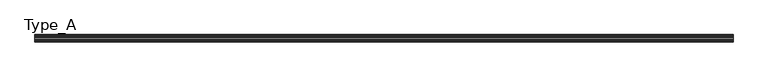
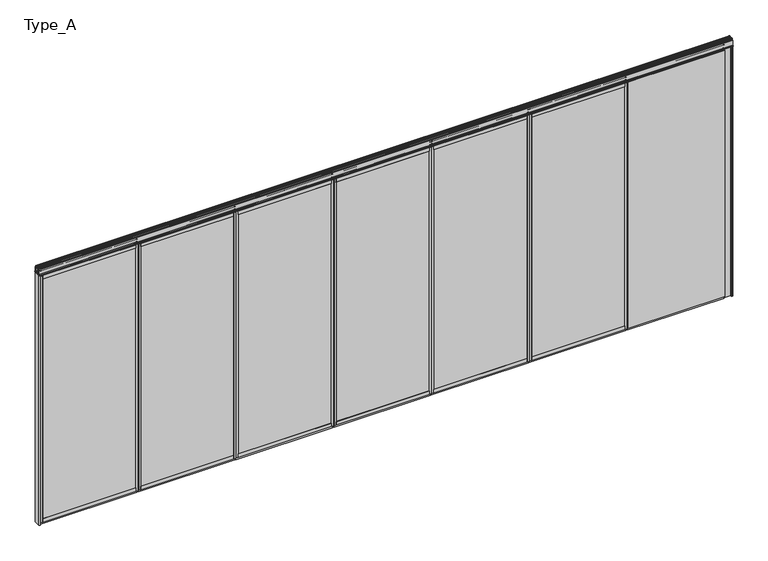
"""IFC4 building model written with IfcOpenShell, lengths in millimetres: proxy geometry, Planner Wall_ダブルガラス(NO Door) : Type_A."""

from ifc_helpers import new_model, si_unit, point, frame, frame_2d, origin, origin_with_axes, place, context, project, spatial, polyline, circle_curve, trimmed, segment, composite_curve, outline, extrude, source, transform, mapped, element, save


def type_a_3dc682f6(model_context):
    return source(origin(), model_context, "Body", "SweptSolid", [
        extrude(outline(polyline([(-1723.5, -25.0), (-1723.5, 25.0), (-630.5714286, 25.0), (-630.5714286, -25.0), (-1723.5, -25.0)])), origin_with_axes(), (0.0, 0.0, 1.0), 65.0),
        extrude(outline(polyline([(-647.0714286, 25.0), (-1701.5, 25.0), (-1701.5, 35.0), (-647.0714286, 35.0), (-647.0714286, 25.0)])), frame((0.0, 0.0, 2935.0), z_axis=(0.0, 0.0, 1.0), x_axis=(1.0, 0.0, 0.0)), (0.0, 0.0, 1.0), 40.0),
        extrude(outline(polyline([(-647.0714286, 25.0), (-1701.5, 25.0), (-1701.5, 35.0), (-647.0714286, 35.0), (-647.0714286, 25.0)])), frame((0.0, 0.0, 25.0), z_axis=(0.0, 0.0, 1.0), x_axis=(1.0, 0.0, 0.0)), (0.0, 0.0, 1.0), 40.0),
        extrude(outline(polyline([(-1683.5, -27.0), (-1701.5, -27.0), (-1701.5, 27.0), (-1683.5, 27.0), (-1683.5, -27.0)])), frame((0.0, 0.0, 65.0), z_axis=(0.0, 0.0, 1.0), x_axis=(1.0, 0.0, 0.0)), (0.0, 0.0, 1.0), 2870.0),
        extrude(outline(polyline([(-647.0714286, -27.0), (-665.0714286, -27.0), (-665.0714286, 27.0), (-647.0714286, 27.0), (-647.0714286, -27.0)])), frame((0.0, 0.0, 65.0), z_axis=(0.0, 0.0, 1.0), x_axis=(1.0, 0.0, 0.0)), (0.0, 0.0, 1.0), 2870.0),
        extrude(outline(polyline([(-665.0714286, -27.0), (-1683.5, -27.0), (-1683.5, 27.0), (-665.0714286, 27.0), (-665.0714286, -27.0)])), frame((0.0, 0.0, 65.0), z_axis=(0.0, 0.0, 1.0), x_axis=(1.0, 0.0, 0.0)), (0.0, 0.0, 1.0), 102.0),
        extrude(outline(polyline([(-665.0714286, -27.0), (-1683.5, -27.0), (-1683.5, 27.0), (-665.0714286, 27.0), (-665.0714286, -27.0)])), frame((0.0, 0.0, 2833.0), z_axis=(0.0, 0.0, 1.0), x_axis=(1.0, 0.0, 0.0)), (0.0, 0.0, 1.0), 102.0),
        extrude(outline(composite_curve([segment(polyline([(23.5, 3050.1000003), (26.5, 3047.1000003), (26.5, 3032.6)]), True, "CONTINUOUS"), segment(trimmed(circle_curve(frame_2d((25.0, 3032.6)), 1.5), [point((26.5, 3032.6))], [point((25.0, 3031.1))], False, "CARTESIAN"), True, "CONTINUOUS"), segment(polyline([(25.0, 3031.1), (9.0, 3031.1), (9.0, 3019.1000003), (23.5, 3019.1000003), (26.5, 3016.1000003), (26.5, 3001.5)]), True, "CONTINUOUS"), segment(trimmed(circle_curve(frame_2d((25.0, 3001.5)), 1.5), [point((26.5, 3001.5))], [point((25.0, 3000.0))], False, "CARTESIAN"), True, "CONTINUOUS"), segment(polyline([(25.0, 3000.0), (7.5, 3000.0), (7.5, 2994.5), (25.0, 2994.5), (25.0, 2935.0), (-25.0, 2935.0), (-25.0, 2994.5), (-7.5, 2994.5), (-7.5, 3000.0), (-25.0, 3000.0)]), True, "CONTINUOUS"), segment(trimmed(circle_curve(frame_2d((-25.0, 3001.5)), 1.5), [point((-25.0, 3000.0))], [point((-26.5, 3001.5))], False, "CARTESIAN"), True, "CONTINUOUS"), segment(polyline([(-26.5, 3001.5), (-26.5, 3016.1000003), (-23.5, 3019.1000003), (-9.0, 3019.1000003), (-9.0, 3031.1), (-25.0, 3031.1)]), True, "CONTINUOUS"), segment(trimmed(circle_curve(frame_2d((-25.0, 3032.6)), 1.5), [point((-25.0, 3031.1))], [point((-26.5, 3032.6))], False, "CARTESIAN"), True, "CONTINUOUS"), segment(polyline([(-26.5, 3032.6), (-26.5, 3047.1000003), (-23.5, 3050.1000003), (23.5, 3050.1000003)]), True, "CONTINUOUS")], self_intersect=False)), frame((-1723.5, 0.0, 0.0), z_axis=(1.0, 0.0, 0.0), x_axis=(0.0, 1.0, 0.0)), (0.0, 0.0, 1.0), 1098.4285714),
        extrude(outline(polyline([(-647.0714286, 27.5), (-1701.5, 27.5), (-1701.5, 32.5), (-647.0714286, 32.5), (-647.0714286, 27.5)])), frame((0.0, 0.0, 65.0), z_axis=(0.0, 0.0, 1.0), x_axis=(1.0, 0.0, 0.0)), (0.0, 0.0, 1.0), 2870.0),
        extrude(outline(polyline([(-647.0714286, -32.5), (-1701.5, -32.5), (-1701.5, -27.5), (-647.0714286, -27.5), (-647.0714286, -32.5)])), frame((0.0, 0.0, 65.0), z_axis=(0.0, 0.0, 1.0), x_axis=(1.0, 0.0, 0.0)), (0.0, 0.0, 1.0), 2870.0),
        extrude(outline(polyline([(-647.0714286, -35.0), (-1701.5, -35.0), (-1701.5, -25.0), (-647.0714286, -25.0), (-647.0714286, -35.0)])), frame((0.0, 0.0, 2935.0), z_axis=(0.0, 0.0, 1.0), x_axis=(1.0, 0.0, 0.0)), (0.0, 0.0, 1.0), 40.0),
        extrude(outline(polyline([(-647.0714286, -35.0), (-1701.5, -35.0), (-1701.5, -25.0), (-647.0714286, -25.0), (-647.0714286, -35.0)])), frame((0.0, 0.0, 25.0), z_axis=(0.0, 0.0, 1.0), x_axis=(1.0, 0.0, 0.0)), (0.0, 0.0, 1.0), 40.0),
        extrude(outline(polyline([(-1737.0, -25.0), (-1737.0, 25.0), (-1723.5, 25.0), (-1723.5, -25.0), (-1737.0, -25.0)])), frame((0.0, 0.0, 53.0), z_axis=(0.0, 0.0, 1.0), x_axis=(1.0, 0.0, 0.0)), (0.0, 0.0, 1.0), 2869.0),
        extrude(outline(polyline([(-647.0714286, 35.0), (-625.0714286, 35.0), (-625.0714286, 25.0), (-647.0714286, 25.0), (-647.0714286, 35.0)])), frame((0.0, 0.0, 25.0), z_axis=(0.0, 0.0, 1.0), x_axis=(1.0, 0.0, 0.0)), (0.0, 0.0, 1.0), 2950.0),
        extrude(outline(polyline([(-647.0714286, -35.0), (-647.0714286, -25.0), (-625.0714286, -25.0), (-625.0714286, -35.0), (-647.0714286, -35.0)])), frame((0.0, 0.0, 25.0), z_axis=(0.0, 0.0, 1.0), x_axis=(1.0, 0.0, 0.0)), (0.0, 0.0, 1.0), 2950.0),
        extrude(outline(polyline([(-1723.5, -35.0), (-1723.5, -25.0), (-1701.5, -25.0), (-1701.5, -35.0), (-1723.5, -35.0)])), frame((0.0, 0.0, 25.0), z_axis=(0.0, 0.0, 1.0), x_axis=(1.0, 0.0, 0.0)), (0.0, 0.0, 1.0), 2950.0),
        extrude(outline(polyline([(-1723.5, 25.0), (-1723.5, 35.0), (-1701.5, 35.0), (-1701.5, 25.0), (-1723.5, 25.0)])), frame((0.0, 0.0, 25.0), z_axis=(0.0, 0.0, 1.0), x_axis=(1.0, 0.0, 0.0)), (0.0, 0.0, 1.0), 2950.0),
        extrude(outline(polyline([(-617.0714286, -25.0), (-617.0714286, 25.0), (475.8571429, 25.0), (475.8571429, -25.0), (-617.0714286, -25.0)])), origin_with_axes(), (0.0, 0.0, 1.0), 65.0),
        extrude(outline(polyline([(459.3571429, 25.0), (-595.0714286, 25.0), (-595.0714286, 35.0), (459.3571429, 35.0), (459.3571429, 25.0)])), frame((0.0, 0.0, 2935.0), z_axis=(0.0, 0.0, 1.0), x_axis=(1.0, 0.0, 0.0)), (0.0, 0.0, 1.0), 40.0),
        extrude(outline(polyline([(459.3571429, 25.0), (-595.0714286, 25.0), (-595.0714286, 35.0), (459.3571429, 35.0), (459.3571429, 25.0)])), frame((0.0, 0.0, 25.0), z_axis=(0.0, 0.0, 1.0), x_axis=(1.0, 0.0, 0.0)), (0.0, 0.0, 1.0), 40.0),
        extrude(outline(polyline([(-577.0714286, -27.0), (-595.0714286, -27.0), (-595.0714286, 27.0), (-577.0714286, 27.0), (-577.0714286, -27.0)])), frame((0.0, 0.0, 65.0), z_axis=(0.0, 0.0, 1.0), x_axis=(1.0, 0.0, 0.0)), (0.0, 0.0, 1.0), 2870.0),
        extrude(outline(polyline([(459.3571429, -27.0), (441.3571429, -27.0), (441.3571429, 27.0), (459.3571429, 27.0), (459.3571429, -27.0)])), frame((0.0, 0.0, 65.0), z_axis=(0.0, 0.0, 1.0), x_axis=(1.0, 0.0, 0.0)), (0.0, 0.0, 1.0), 2870.0),
        extrude(outline(polyline([(441.3571429, -27.0), (-577.0714286, -27.0), (-577.0714286, 27.0), (441.3571429, 27.0), (441.3571429, -27.0)])), frame((0.0, 0.0, 65.0), z_axis=(0.0, 0.0, 1.0), x_axis=(1.0, 0.0, 0.0)), (0.0, 0.0, 1.0), 102.0),
        extrude(outline(polyline([(441.3571429, -27.0), (-577.0714286, -27.0), (-577.0714286, 27.0), (441.3571429, 27.0), (441.3571429, -27.0)])), frame((0.0, 0.0, 2833.0), z_axis=(0.0, 0.0, 1.0), x_axis=(1.0, 0.0, 0.0)), (0.0, 0.0, 1.0), 102.0),
        extrude(outline(composite_curve([segment(polyline([(23.5, 3050.1000003), (26.5, 3047.1000003), (26.5, 3032.6)]), True, "CONTINUOUS"), segment(trimmed(circle_curve(frame_2d((25.0, 3032.6)), 1.5), [point((26.5, 3032.6))], [point((25.0, 3031.1))], False, "CARTESIAN"), True, "CONTINUOUS"), segment(polyline([(25.0, 3031.1), (9.0, 3031.1), (9.0, 3019.1000003), (23.5, 3019.1000003), (26.5, 3016.1000003), (26.5, 3001.5)]), True, "CONTINUOUS"), segment(trimmed(circle_curve(frame_2d((25.0, 3001.5)), 1.5), [point((26.5, 3001.5))], [point((25.0, 3000.0))], False, "CARTESIAN"), True, "CONTINUOUS"), segment(polyline([(25.0, 3000.0), (7.5, 3000.0), (7.5, 2994.5), (25.0, 2994.5), (25.0, 2935.0), (-25.0, 2935.0), (-25.0, 2994.5), (-7.5, 2994.5), (-7.5, 3000.0), (-25.0, 3000.0)]), True, "CONTINUOUS"), segment(trimmed(circle_curve(frame_2d((-25.0, 3001.5)), 1.5), [point((-25.0, 3000.0))], [point((-26.5, 3001.5))], False, "CARTESIAN"), True, "CONTINUOUS"), segment(polyline([(-26.5, 3001.5), (-26.5, 3016.1000003), (-23.5, 3019.1000003), (-9.0, 3019.1000003), (-9.0, 3031.1), (-25.0, 3031.1)]), True, "CONTINUOUS"), segment(trimmed(circle_curve(frame_2d((-25.0, 3032.6)), 1.5), [point((-25.0, 3031.1))], [point((-26.5, 3032.6))], False, "CARTESIAN"), True, "CONTINUOUS"), segment(polyline([(-26.5, 3032.6), (-26.5, 3047.1000003), (-23.5, 3050.1000003), (23.5, 3050.1000003)]), True, "CONTINUOUS")], self_intersect=False)), frame((-617.0714286, 0.0, 0.0), z_axis=(1.0, 0.0, 0.0), x_axis=(0.0, 1.0, 0.0)), (0.0, 0.0, 1.0), 1098.4285714),
        extrude(outline(polyline([(459.3571429, 27.5), (-595.0714286, 27.5), (-595.0714286, 32.5), (459.3571429, 32.5), (459.3571429, 27.5)])), frame((0.0, 0.0, 65.0), z_axis=(0.0, 0.0, 1.0), x_axis=(1.0, 0.0, 0.0)), (0.0, 0.0, 1.0), 2870.0),
        extrude(outline(polyline([(459.3571429, -32.5), (-595.0714286, -32.5), (-595.0714286, -27.5), (459.3571429, -27.5), (459.3571429, -32.5)])), frame((0.0, 0.0, 65.0), z_axis=(0.0, 0.0, 1.0), x_axis=(1.0, 0.0, 0.0)), (0.0, 0.0, 1.0), 2870.0),
        extrude(outline(polyline([(459.3571429, -35.0), (-595.0714286, -35.0), (-595.0714286, -25.0), (459.3571429, -25.0), (459.3571429, -35.0)])), frame((0.0, 0.0, 2935.0), z_axis=(0.0, 0.0, 1.0), x_axis=(1.0, 0.0, 0.0)), (0.0, 0.0, 1.0), 40.0),
        extrude(outline(polyline([(459.3571429, -35.0), (-595.0714286, -35.0), (-595.0714286, -25.0), (459.3571429, -25.0), (459.3571429, -35.0)])), frame((0.0, 0.0, 25.0), z_axis=(0.0, 0.0, 1.0), x_axis=(1.0, 0.0, 0.0)), (0.0, 0.0, 1.0), 40.0),
        extrude(outline(polyline([(-630.5714286, -25.0), (-630.5714286, 25.0), (-617.0714286, 25.0), (-617.0714286, -25.0), (-630.5714286, -25.0)])), frame((0.0, 0.0, 53.0), z_axis=(0.0, 0.0, 1.0), x_axis=(1.0, 0.0, 0.0)), (0.0, 0.0, 1.0), 2869.0),
        extrude(outline(polyline([(459.3571429, 35.0), (481.3571429, 35.0), (481.3571429, 25.0), (459.3571429, 25.0), (459.3571429, 35.0)])), frame((0.0, 0.0, 25.0), z_axis=(0.0, 0.0, 1.0), x_axis=(1.0, 0.0, 0.0)), (0.0, 0.0, 1.0), 2950.0),
        extrude(outline(polyline([(459.3571429, -35.0), (459.3571429, -25.0), (481.3571429, -25.0), (481.3571429, -35.0), (459.3571429, -35.0)])), frame((0.0, 0.0, 25.0), z_axis=(0.0, 0.0, 1.0), x_axis=(1.0, 0.0, 0.0)), (0.0, 0.0, 1.0), 2950.0),
        extrude(outline(polyline([(-617.0714286, -35.0), (-617.0714286, -25.0), (-595.0714286, -25.0), (-595.0714286, -35.0), (-617.0714286, -35.0)])), frame((0.0, 0.0, 25.0), z_axis=(0.0, 0.0, 1.0), x_axis=(1.0, 0.0, 0.0)), (0.0, 0.0, 1.0), 2950.0),
        extrude(outline(polyline([(-617.0714286, 25.0), (-617.0714286, 35.0), (-595.0714286, 35.0), (-595.0714286, 25.0), (-617.0714286, 25.0)])), frame((0.0, 0.0, 25.0), z_axis=(0.0, 0.0, 1.0), x_axis=(1.0, 0.0, 0.0)), (0.0, 0.0, 1.0), 2950.0),
        extrude(outline(polyline([(489.3571429, -25.0), (489.3571429, 25.0), (1582.2857143, 25.0), (1582.2857143, -25.0), (489.3571429, -25.0)])), origin_with_axes(), (0.0, 0.0, 1.0), 65.0),
        extrude(outline(polyline([(1565.7857143, 25.0), (511.3571429, 25.0), (511.3571429, 35.0), (1565.7857143, 35.0), (1565.7857143, 25.0)])), frame((0.0, 0.0, 2935.0), z_axis=(0.0, 0.0, 1.0), x_axis=(1.0, 0.0, 0.0)), (0.0, 0.0, 1.0), 40.0),
        extrude(outline(polyline([(1565.7857143, 25.0), (511.3571429, 25.0), (511.3571429, 35.0), (1565.7857143, 35.0), (1565.7857143, 25.0)])), frame((0.0, 0.0, 25.0), z_axis=(0.0, 0.0, 1.0), x_axis=(1.0, 0.0, 0.0)), (0.0, 0.0, 1.0), 40.0),
        extrude(outline(polyline([(529.3571429, -27.0), (511.3571429, -27.0), (511.3571429, 27.0), (529.3571429, 27.0), (529.3571429, -27.0)])), frame((0.0, 0.0, 65.0), z_axis=(0.0, 0.0, 1.0), x_axis=(1.0, 0.0, 0.0)), (0.0, 0.0, 1.0), 2870.0),
        extrude(outline(polyline([(1565.7857143, -27.0), (1547.7857143, -27.0), (1547.7857143, 27.0), (1565.7857143, 27.0), (1565.7857143, -27.0)])), frame((0.0, 0.0, 65.0), z_axis=(0.0, 0.0, 1.0), x_axis=(1.0, 0.0, 0.0)), (0.0, 0.0, 1.0), 2870.0),
        extrude(outline(polyline([(1547.7857143, -27.0), (529.3571429, -27.0), (529.3571429, 27.0), (1547.7857143, 27.0), (1547.7857143, -27.0)])), frame((0.0, 0.0, 65.0), z_axis=(0.0, 0.0, 1.0), x_axis=(1.0, 0.0, 0.0)), (0.0, 0.0, 1.0), 102.0),
        extrude(outline(polyline([(1547.7857143, -27.0), (529.3571429, -27.0), (529.3571429, 27.0), (1547.7857143, 27.0), (1547.7857143, -27.0)])), frame((0.0, 0.0, 2833.0), z_axis=(0.0, 0.0, 1.0), x_axis=(1.0, 0.0, 0.0)), (0.0, 0.0, 1.0), 102.0),
        extrude(outline(composite_curve([segment(polyline([(23.5, 3050.1000003), (26.5, 3047.1000003), (26.5, 3032.6)]), True, "CONTINUOUS"), segment(trimmed(circle_curve(frame_2d((25.0, 3032.6)), 1.5), [point((26.5, 3032.6))], [point((25.0, 3031.1))], False, "CARTESIAN"), True, "CONTINUOUS"), segment(polyline([(25.0, 3031.1), (9.0, 3031.1), (9.0, 3019.1000003), (23.5, 3019.1000003), (26.5, 3016.1000003), (26.5, 3001.5)]), True, "CONTINUOUS"), segment(trimmed(circle_curve(frame_2d((25.0, 3001.5)), 1.5), [point((26.5, 3001.5))], [point((25.0, 3000.0))], False, "CARTESIAN"), True, "CONTINUOUS"), segment(polyline([(25.0, 3000.0), (7.5, 3000.0), (7.5, 2994.5), (25.0, 2994.5), (25.0, 2935.0), (-25.0, 2935.0), (-25.0, 2994.5), (-7.5, 2994.5), (-7.5, 3000.0), (-25.0, 3000.0)]), True, "CONTINUOUS"), segment(trimmed(circle_curve(frame_2d((-25.0, 3001.5)), 1.5), [point((-25.0, 3000.0))], [point((-26.5, 3001.5))], False, "CARTESIAN"), True, "CONTINUOUS"), segment(polyline([(-26.5, 3001.5), (-26.5, 3016.1000003), (-23.5, 3019.1000003), (-9.0, 3019.1000003), (-9.0, 3031.1), (-25.0, 3031.1)]), True, "CONTINUOUS"), segment(trimmed(circle_curve(frame_2d((-25.0, 3032.6)), 1.5), [point((-25.0, 3031.1))], [point((-26.5, 3032.6))], False, "CARTESIAN"), True, "CONTINUOUS"), segment(polyline([(-26.5, 3032.6), (-26.5, 3047.1000003), (-23.5, 3050.1000003), (23.5, 3050.1000003)]), True, "CONTINUOUS")], self_intersect=False)), frame((489.3571429, 0.0, 0.0), z_axis=(1.0, 0.0, 0.0), x_axis=(0.0, 1.0, 0.0)), (0.0, 0.0, 1.0), 1098.4285714),
        extrude(outline(polyline([(1565.7857143, 27.5), (511.3571429, 27.5), (511.3571429, 32.5), (1565.7857143, 32.5), (1565.7857143, 27.5)])), frame((0.0, 0.0, 65.0), z_axis=(0.0, 0.0, 1.0), x_axis=(1.0, 0.0, 0.0)), (0.0, 0.0, 1.0), 2870.0),
        extrude(outline(polyline([(1565.7857143, -32.5), (511.3571429, -32.5), (511.3571429, -27.5), (1565.7857143, -27.5), (1565.7857143, -32.5)])), frame((0.0, 0.0, 65.0), z_axis=(0.0, 0.0, 1.0), x_axis=(1.0, 0.0, 0.0)), (0.0, 0.0, 1.0), 2870.0),
        extrude(outline(polyline([(1565.7857143, -35.0), (511.3571429, -35.0), (511.3571429, -25.0), (1565.7857143, -25.0), (1565.7857143, -35.0)])), frame((0.0, 0.0, 2935.0), z_axis=(0.0, 0.0, 1.0), x_axis=(1.0, 0.0, 0.0)), (0.0, 0.0, 1.0), 40.0),
        extrude(outline(polyline([(1565.7857143, -35.0), (511.3571429, -35.0), (511.3571429, -25.0), (1565.7857143, -25.0), (1565.7857143, -35.0)])), frame((0.0, 0.0, 25.0), z_axis=(0.0, 0.0, 1.0), x_axis=(1.0, 0.0, 0.0)), (0.0, 0.0, 1.0), 40.0),
        extrude(outline(polyline([(475.8571429, -25.0), (475.8571429, 25.0), (489.3571429, 25.0), (489.3571429, -25.0), (475.8571429, -25.0)])), frame((0.0, 0.0, 53.0), z_axis=(0.0, 0.0, 1.0), x_axis=(1.0, 0.0, 0.0)), (0.0, 0.0, 1.0), 2869.0),
        extrude(outline(polyline([(1565.7857143, 35.0), (1587.7857143, 35.0), (1587.7857143, 25.0), (1565.7857143, 25.0), (1565.7857143, 35.0)])), frame((0.0, 0.0, 25.0), z_axis=(0.0, 0.0, 1.0), x_axis=(1.0, 0.0, 0.0)), (0.0, 0.0, 1.0), 2950.0),
        extrude(outline(polyline([(1565.7857143, -35.0), (1565.7857143, -25.0), (1587.7857143, -25.0), (1587.7857143, -35.0), (1565.7857143, -35.0)])), frame((0.0, 0.0, 25.0), z_axis=(0.0, 0.0, 1.0), x_axis=(1.0, 0.0, 0.0)), (0.0, 0.0, 1.0), 2950.0),
        extrude(outline(polyline([(489.3571429, -35.0), (489.3571429, -25.0), (511.3571429, -25.0), (511.3571429, -35.0), (489.3571429, -35.0)])), frame((0.0, 0.0, 25.0), z_axis=(0.0, 0.0, 1.0), x_axis=(1.0, 0.0, 0.0)), (0.0, 0.0, 1.0), 2950.0),
        extrude(outline(polyline([(489.3571429, 25.0), (489.3571429, 35.0), (511.3571429, 35.0), (511.3571429, 25.0), (489.3571429, 25.0)])), frame((0.0, 0.0, 25.0), z_axis=(0.0, 0.0, 1.0), x_axis=(1.0, 0.0, 0.0)), (0.0, 0.0, 1.0), 2950.0),
        extrude(outline(polyline([(1595.7857143, -25.0), (1595.7857143, 25.0), (2688.7142857, 25.0), (2688.7142857, -25.0), (1595.7857143, -25.0)])), origin_with_axes(), (0.0, 0.0, 1.0), 65.0),
        extrude(outline(polyline([(2672.2142857, 25.0), (1617.7857143, 25.0), (1617.7857143, 35.0), (2672.2142857, 35.0), (2672.2142857, 25.0)])), frame((0.0, 0.0, 2935.0), z_axis=(0.0, 0.0, 1.0), x_axis=(1.0, 0.0, 0.0)), (0.0, 0.0, 1.0), 40.0),
        extrude(outline(polyline([(2672.2142857, 25.0), (1617.7857143, 25.0), (1617.7857143, 35.0), (2672.2142857, 35.0), (2672.2142857, 25.0)])), frame((0.0, 0.0, 25.0), z_axis=(0.0, 0.0, 1.0), x_axis=(1.0, 0.0, 0.0)), (0.0, 0.0, 1.0), 40.0),
        extrude(outline(polyline([(1635.7857143, -27.0), (1617.7857143, -27.0), (1617.7857143, 27.0), (1635.7857143, 27.0), (1635.7857143, -27.0)])), frame((0.0, 0.0, 65.0), z_axis=(0.0, 0.0, 1.0), x_axis=(1.0, 0.0, 0.0)), (0.0, 0.0, 1.0), 2870.0),
        extrude(outline(polyline([(2672.2142857, -27.0), (2654.2142857, -27.0), (2654.2142857, 27.0), (2672.2142857, 27.0), (2672.2142857, -27.0)])), frame((0.0, 0.0, 65.0), z_axis=(0.0, 0.0, 1.0), x_axis=(1.0, 0.0, 0.0)), (0.0, 0.0, 1.0), 2870.0),
        extrude(outline(polyline([(2654.2142857, -27.0), (1635.7857143, -27.0), (1635.7857143, 27.0), (2654.2142857, 27.0), (2654.2142857, -27.0)])), frame((0.0, 0.0, 65.0), z_axis=(0.0, 0.0, 1.0), x_axis=(1.0, 0.0, 0.0)), (0.0, 0.0, 1.0), 102.0),
        extrude(outline(polyline([(2654.2142857, -27.0), (1635.7857143, -27.0), (1635.7857143, 27.0), (2654.2142857, 27.0), (2654.2142857, -27.0)])), frame((0.0, 0.0, 2833.0), z_axis=(0.0, 0.0, 1.0), x_axis=(1.0, 0.0, 0.0)), (0.0, 0.0, 1.0), 102.0),
        extrude(outline(composite_curve([segment(polyline([(23.5, 3050.1000003), (26.5, 3047.1000003), (26.5, 3032.6)]), True, "CONTINUOUS"), segment(trimmed(circle_curve(frame_2d((25.0, 3032.6)), 1.5), [point((26.5, 3032.6))], [point((25.0, 3031.1))], False, "CARTESIAN"), True, "CONTINUOUS"), segment(polyline([(25.0, 3031.1), (9.0, 3031.1), (9.0, 3019.1000003), (23.5, 3019.1000003), (26.5, 3016.1000003), (26.5, 3001.5)]), True, "CONTINUOUS"), segment(trimmed(circle_curve(frame_2d((25.0, 3001.5)), 1.5), [point((26.5, 3001.5))], [point((25.0, 3000.0))], False, "CARTESIAN"), True, "CONTINUOUS"), segment(polyline([(25.0, 3000.0), (7.5, 3000.0), (7.5, 2994.5), (25.0, 2994.5), (25.0, 2935.0), (-25.0, 2935.0), (-25.0, 2994.5), (-7.5, 2994.5), (-7.5, 3000.0), (-25.0, 3000.0)]), True, "CONTINUOUS"), segment(trimmed(circle_curve(frame_2d((-25.0, 3001.5)), 1.5), [point((-25.0, 3000.0))], [point((-26.5, 3001.5))], False, "CARTESIAN"), True, "CONTINUOUS"), segment(polyline([(-26.5, 3001.5), (-26.5, 3016.1000003), (-23.5, 3019.1000003), (-9.0, 3019.1000003), (-9.0, 3031.1), (-25.0, 3031.1)]), True, "CONTINUOUS"), segment(trimmed(circle_curve(frame_2d((-25.0, 3032.6)), 1.5), [point((-25.0, 3031.1))], [point((-26.5, 3032.6))], False, "CARTESIAN"), True, "CONTINUOUS"), segment(polyline([(-26.5, 3032.6), (-26.5, 3047.1000003), (-23.5, 3050.1000003), (23.5, 3050.1000003)]), True, "CONTINUOUS")], self_intersect=False)), frame((1595.7857143, 0.0, 0.0), z_axis=(1.0, 0.0, 0.0), x_axis=(0.0, 1.0, 0.0)), (0.0, 0.0, 1.0), 1098.4285714),
        extrude(outline(polyline([(2672.2142857, 27.5), (1617.7857143, 27.5), (1617.7857143, 32.5), (2672.2142857, 32.5), (2672.2142857, 27.5)])), frame((0.0, 0.0, 65.0), z_axis=(0.0, 0.0, 1.0), x_axis=(1.0, 0.0, 0.0)), (0.0, 0.0, 1.0), 2870.0),
        extrude(outline(polyline([(2672.2142857, -32.5), (1617.7857143, -32.5), (1617.7857143, -27.5), (2672.2142857, -27.5), (2672.2142857, -32.5)])), frame((0.0, 0.0, 65.0), z_axis=(0.0, 0.0, 1.0), x_axis=(1.0, 0.0, 0.0)), (0.0, 0.0, 1.0), 2870.0),
        extrude(outline(polyline([(2672.2142857, -35.0), (1617.7857143, -35.0), (1617.7857143, -25.0), (2672.2142857, -25.0), (2672.2142857, -35.0)])), frame((0.0, 0.0, 2935.0), z_axis=(0.0, 0.0, 1.0), x_axis=(1.0, 0.0, 0.0)), (0.0, 0.0, 1.0), 40.0),
        extrude(outline(polyline([(2672.2142857, -35.0), (1617.7857143, -35.0), (1617.7857143, -25.0), (2672.2142857, -25.0), (2672.2142857, -35.0)])), frame((0.0, 0.0, 25.0), z_axis=(0.0, 0.0, 1.0), x_axis=(1.0, 0.0, 0.0)), (0.0, 0.0, 1.0), 40.0),
        extrude(outline(polyline([(1582.2857143, -25.0), (1582.2857143, 25.0), (1595.7857143, 25.0), (1595.7857143, -25.0), (1582.2857143, -25.0)])), frame((0.0, 0.0, 53.0), z_axis=(0.0, 0.0, 1.0), x_axis=(1.0, 0.0, 0.0)), (0.0, 0.0, 1.0), 2869.0),
        extrude(outline(polyline([(2672.2142857, 35.0), (2694.2142857, 35.0), (2694.2142857, 25.0), (2672.2142857, 25.0), (2672.2142857, 35.0)])), frame((0.0, 0.0, 25.0), z_axis=(0.0, 0.0, 1.0), x_axis=(1.0, 0.0, 0.0)), (0.0, 0.0, 1.0), 2950.0),
        extrude(outline(polyline([(2672.2142857, -35.0), (2672.2142857, -25.0), (2694.2142857, -25.0), (2694.2142857, -35.0), (2672.2142857, -35.0)])), frame((0.0, 0.0, 25.0), z_axis=(0.0, 0.0, 1.0), x_axis=(1.0, 0.0, 0.0)), (0.0, 0.0, 1.0), 2950.0),
        extrude(outline(polyline([(1595.7857143, -35.0), (1595.7857143, -25.0), (1617.7857143, -25.0), (1617.7857143, -35.0), (1595.7857143, -35.0)])), frame((0.0, 0.0, 25.0), z_axis=(0.0, 0.0, 1.0), x_axis=(1.0, 0.0, 0.0)), (0.0, 0.0, 1.0), 2950.0),
        extrude(outline(polyline([(1595.7857143, 25.0), (1595.7857143, 35.0), (1617.7857143, 35.0), (1617.7857143, 25.0), (1595.7857143, 25.0)])), frame((0.0, 0.0, 25.0), z_axis=(0.0, 0.0, 1.0), x_axis=(1.0, 0.0, 0.0)), (0.0, 0.0, 1.0), 2950.0),
        extrude(outline(polyline([(2702.2142857, -25.0), (2702.2142857, 25.0), (3795.1428571, 25.0), (3795.1428571, -25.0), (2702.2142857, -25.0)])), origin_with_axes(), (0.0, 0.0, 1.0), 65.0),
        extrude(outline(polyline([(3778.6428571, 25.0), (2724.2142857, 25.0), (2724.2142857, 35.0), (3778.6428571, 35.0), (3778.6428571, 25.0)])), frame((0.0, 0.0, 2935.0), z_axis=(0.0, 0.0, 1.0), x_axis=(1.0, 0.0, 0.0)), (0.0, 0.0, 1.0), 40.0),
        extrude(outline(polyline([(3778.6428571, 25.0), (2724.2142857, 25.0), (2724.2142857, 35.0), (3778.6428571, 35.0), (3778.6428571, 25.0)])), frame((0.0, 0.0, 25.0), z_axis=(0.0, 0.0, 1.0), x_axis=(1.0, 0.0, 0.0)), (0.0, 0.0, 1.0), 40.0),
        extrude(outline(polyline([(2742.2142857, -27.0), (2724.2142857, -27.0), (2724.2142857, 27.0), (2742.2142857, 27.0), (2742.2142857, -27.0)])), frame((0.0, 0.0, 65.0), z_axis=(0.0, 0.0, 1.0), x_axis=(1.0, 0.0, 0.0)), (0.0, 0.0, 1.0), 2870.0),
        extrude(outline(polyline([(3778.6428571, -27.0), (3760.6428571, -27.0), (3760.6428571, 27.0), (3778.6428571, 27.0), (3778.6428571, -27.0)])), frame((0.0, 0.0, 65.0), z_axis=(0.0, 0.0, 1.0), x_axis=(1.0, 0.0, 0.0)), (0.0, 0.0, 1.0), 2870.0),
        extrude(outline(polyline([(3760.6428571, -27.0), (2742.2142857, -27.0), (2742.2142857, 27.0), (3760.6428571, 27.0), (3760.6428571, -27.0)])), frame((0.0, 0.0, 65.0), z_axis=(0.0, 0.0, 1.0), x_axis=(1.0, 0.0, 0.0)), (0.0, 0.0, 1.0), 102.0),
        extrude(outline(polyline([(3760.6428571, -27.0), (2742.2142857, -27.0), (2742.2142857, 27.0), (3760.6428571, 27.0), (3760.6428571, -27.0)])), frame((0.0, 0.0, 2833.0), z_axis=(0.0, 0.0, 1.0), x_axis=(1.0, 0.0, 0.0)), (0.0, 0.0, 1.0), 102.0),
        extrude(outline(composite_curve([segment(polyline([(23.5, 3050.1000003), (26.5, 3047.1000003), (26.5, 3032.6)]), True, "CONTINUOUS"), segment(trimmed(circle_curve(frame_2d((25.0, 3032.6)), 1.5), [point((26.5, 3032.6))], [point((25.0, 3031.1))], False, "CARTESIAN"), True, "CONTINUOUS"), segment(polyline([(25.0, 3031.1), (9.0, 3031.1), (9.0, 3019.1000003), (23.5, 3019.1000003), (26.5, 3016.1000003), (26.5, 3001.5)]), True, "CONTINUOUS"), segment(trimmed(circle_curve(frame_2d((25.0, 3001.5)), 1.5), [point((26.5, 3001.5))], [point((25.0, 3000.0))], False, "CARTESIAN"), True, "CONTINUOUS"), segment(polyline([(25.0, 3000.0), (7.5, 3000.0), (7.5, 2994.5), (25.0, 2994.5), (25.0, 2935.0), (-25.0, 2935.0), (-25.0, 2994.5), (-7.5, 2994.5), (-7.5, 3000.0), (-25.0, 3000.0)]), True, "CONTINUOUS"), segment(trimmed(circle_curve(frame_2d((-25.0, 3001.5)), 1.5), [point((-25.0, 3000.0))], [point((-26.5, 3001.5))], False, "CARTESIAN"), True, "CONTINUOUS"), segment(polyline([(-26.5, 3001.5), (-26.5, 3016.1000003), (-23.5, 3019.1000003), (-9.0, 3019.1000003), (-9.0, 3031.1), (-25.0, 3031.1)]), True, "CONTINUOUS"), segment(trimmed(circle_curve(frame_2d((-25.0, 3032.6)), 1.5), [point((-25.0, 3031.1))], [point((-26.5, 3032.6))], False, "CARTESIAN"), True, "CONTINUOUS"), segment(polyline([(-26.5, 3032.6), (-26.5, 3047.1000003), (-23.5, 3050.1000003), (23.5, 3050.1000003)]), True, "CONTINUOUS")], self_intersect=False)), frame((2702.2142857, 0.0, 0.0), z_axis=(1.0, 0.0, 0.0), x_axis=(0.0, 1.0, 0.0)), (0.0, 0.0, 1.0), 1098.4285714),
        extrude(outline(polyline([(3778.6428571, 27.5), (2724.2142857, 27.5), (2724.2142857, 32.5), (3778.6428571, 32.5), (3778.6428571, 27.5)])), frame((0.0, 0.0, 65.0), z_axis=(0.0, 0.0, 1.0), x_axis=(1.0, 0.0, 0.0)), (0.0, 0.0, 1.0), 2870.0),
        extrude(outline(polyline([(3778.6428571, -32.5), (2724.2142857, -32.5), (2724.2142857, -27.5), (3778.6428571, -27.5), (3778.6428571, -32.5)])), frame((0.0, 0.0, 65.0), z_axis=(0.0, 0.0, 1.0), x_axis=(1.0, 0.0, 0.0)), (0.0, 0.0, 1.0), 2870.0),
        extrude(outline(polyline([(3778.6428571, -35.0), (2724.2142857, -35.0), (2724.2142857, -25.0), (3778.6428571, -25.0), (3778.6428571, -35.0)])), frame((0.0, 0.0, 2935.0), z_axis=(0.0, 0.0, 1.0), x_axis=(1.0, 0.0, 0.0)), (0.0, 0.0, 1.0), 40.0),
        extrude(outline(polyline([(3778.6428571, -35.0), (2724.2142857, -35.0), (2724.2142857, -25.0), (3778.6428571, -25.0), (3778.6428571, -35.0)])), frame((0.0, 0.0, 25.0), z_axis=(0.0, 0.0, 1.0), x_axis=(1.0, 0.0, 0.0)), (0.0, 0.0, 1.0), 40.0),
        extrude(outline(polyline([(2688.7142857, -25.0), (2688.7142857, 25.0), (2702.2142857, 25.0), (2702.2142857, -25.0), (2688.7142857, -25.0)])), frame((0.0, 0.0, 53.0), z_axis=(0.0, 0.0, 1.0), x_axis=(1.0, 0.0, 0.0)), (0.0, 0.0, 1.0), 2869.0),
        extrude(outline(polyline([(3778.6428571, 35.0), (3800.6428571, 35.0), (3800.6428571, 25.0), (3778.6428571, 25.0), (3778.6428571, 35.0)])), frame((0.0, 0.0, 25.0), z_axis=(0.0, 0.0, 1.0), x_axis=(1.0, 0.0, 0.0)), (0.0, 0.0, 1.0), 2950.0),
        extrude(outline(polyline([(3778.6428571, -35.0), (3778.6428571, -25.0), (3800.6428571, -25.0), (3800.6428571, -35.0), (3778.6428571, -35.0)])), frame((0.0, 0.0, 25.0), z_axis=(0.0, 0.0, 1.0), x_axis=(1.0, 0.0, 0.0)), (0.0, 0.0, 1.0), 2950.0),
        extrude(outline(polyline([(2702.2142857, -35.0), (2702.2142857, -25.0), (2724.2142857, -25.0), (2724.2142857, -35.0), (2702.2142857, -35.0)])), frame((0.0, 0.0, 25.0), z_axis=(0.0, 0.0, 1.0), x_axis=(1.0, 0.0, 0.0)), (0.0, 0.0, 1.0), 2950.0),
        extrude(outline(polyline([(2702.2142857, 25.0), (2702.2142857, 35.0), (2724.2142857, 35.0), (2724.2142857, 25.0), (2702.2142857, 25.0)])), frame((0.0, 0.0, 25.0), z_axis=(0.0, 0.0, 1.0), x_axis=(1.0, 0.0, 0.0)), (0.0, 0.0, 1.0), 2950.0),
        extrude(outline(polyline([(3808.6428571, -25.0), (3808.6428571, 25.0), (4901.5714286, 25.0), (4901.5714286, -25.0), (3808.6428571, -25.0)])), origin_with_axes(), (0.0, 0.0, 1.0), 65.0),
        extrude(outline(polyline([(4885.0714286, 25.0), (3830.6428571, 25.0), (3830.6428571, 35.0), (4885.0714286, 35.0), (4885.0714286, 25.0)])), frame((0.0, 0.0, 2935.0), z_axis=(0.0, 0.0, 1.0), x_axis=(1.0, 0.0, 0.0)), (0.0, 0.0, 1.0), 40.0),
        extrude(outline(polyline([(4885.0714286, 25.0), (3830.6428571, 25.0), (3830.6428571, 35.0), (4885.0714286, 35.0), (4885.0714286, 25.0)])), frame((0.0, 0.0, 25.0), z_axis=(0.0, 0.0, 1.0), x_axis=(1.0, 0.0, 0.0)), (0.0, 0.0, 1.0), 40.0),
        extrude(outline(polyline([(3848.6428571, -27.0), (3830.6428571, -27.0), (3830.6428571, 27.0), (3848.6428571, 27.0), (3848.6428571, -27.0)])), frame((0.0, 0.0, 65.0), z_axis=(0.0, 0.0, 1.0), x_axis=(1.0, 0.0, 0.0)), (0.0, 0.0, 1.0), 2870.0),
        extrude(outline(polyline([(4885.0714286, -27.0), (4867.0714286, -27.0), (4867.0714286, 27.0), (4885.0714286, 27.0), (4885.0714286, -27.0)])), frame((0.0, 0.0, 65.0), z_axis=(0.0, 0.0, 1.0), x_axis=(1.0, 0.0, 0.0)), (0.0, 0.0, 1.0), 2870.0),
        extrude(outline(polyline([(4867.0714286, -27.0), (3848.6428571, -27.0), (3848.6428571, 27.0), (4867.0714286, 27.0), (4867.0714286, -27.0)])), frame((0.0, 0.0, 65.0), z_axis=(0.0, 0.0, 1.0), x_axis=(1.0, 0.0, 0.0)), (0.0, 0.0, 1.0), 102.0),
        extrude(outline(polyline([(4867.0714286, -27.0), (3848.6428571, -27.0), (3848.6428571, 27.0), (4867.0714286, 27.0), (4867.0714286, -27.0)])), frame((0.0, 0.0, 2833.0), z_axis=(0.0, 0.0, 1.0), x_axis=(1.0, 0.0, 0.0)), (0.0, 0.0, 1.0), 102.0),
        extrude(outline(composite_curve([segment(polyline([(23.5, 3050.1000003), (26.5, 3047.1000003), (26.5, 3032.6)]), True, "CONTINUOUS"), segment(trimmed(circle_curve(frame_2d((25.0, 3032.6)), 1.5), [point((26.5, 3032.6))], [point((25.0, 3031.1))], False, "CARTESIAN"), True, "CONTINUOUS"), segment(polyline([(25.0, 3031.1), (9.0, 3031.1), (9.0, 3019.1000003), (23.5, 3019.1000003), (26.5, 3016.1000003), (26.5, 3001.5)]), True, "CONTINUOUS"), segment(trimmed(circle_curve(frame_2d((25.0, 3001.5)), 1.5), [point((26.5, 3001.5))], [point((25.0, 3000.0))], False, "CARTESIAN"), True, "CONTINUOUS"), segment(polyline([(25.0, 3000.0), (7.5, 3000.0), (7.5, 2994.5), (25.0, 2994.5), (25.0, 2935.0), (-25.0, 2935.0), (-25.0, 2994.5), (-7.5, 2994.5), (-7.5, 3000.0), (-25.0, 3000.0)]), True, "CONTINUOUS"), segment(trimmed(circle_curve(frame_2d((-25.0, 3001.5)), 1.5), [point((-25.0, 3000.0))], [point((-26.5, 3001.5))], False, "CARTESIAN"), True, "CONTINUOUS"), segment(polyline([(-26.5, 3001.5), (-26.5, 3016.1000003), (-23.5, 3019.1000003), (-9.0, 3019.1000003), (-9.0, 3031.1), (-25.0, 3031.1)]), True, "CONTINUOUS"), segment(trimmed(circle_curve(frame_2d((-25.0, 3032.6)), 1.5), [point((-25.0, 3031.1))], [point((-26.5, 3032.6))], False, "CARTESIAN"), True, "CONTINUOUS"), segment(polyline([(-26.5, 3032.6), (-26.5, 3047.1000003), (-23.5, 3050.1000003), (23.5, 3050.1000003)]), True, "CONTINUOUS")], self_intersect=False)), frame((3808.6428571, 0.0, 0.0), z_axis=(1.0, 0.0, 0.0), x_axis=(0.0, 1.0, 0.0)), (0.0, 0.0, 1.0), 1098.4285714),
        extrude(outline(polyline([(4885.0714286, 27.5), (3830.6428571, 27.5), (3830.6428571, 32.5), (4885.0714286, 32.5), (4885.0714286, 27.5)])), frame((0.0, 0.0, 65.0), z_axis=(0.0, 0.0, 1.0), x_axis=(1.0, 0.0, 0.0)), (0.0, 0.0, 1.0), 2870.0),
        extrude(outline(polyline([(4885.0714286, -32.5), (3830.6428571, -32.5), (3830.6428571, -27.5), (4885.0714286, -27.5), (4885.0714286, -32.5)])), frame((0.0, 0.0, 65.0), z_axis=(0.0, 0.0, 1.0), x_axis=(1.0, 0.0, 0.0)), (0.0, 0.0, 1.0), 2870.0),
        extrude(outline(polyline([(4885.0714286, -35.0), (3830.6428571, -35.0), (3830.6428571, -25.0), (4885.0714286, -25.0), (4885.0714286, -35.0)])), frame((0.0, 0.0, 2935.0), z_axis=(0.0, 0.0, 1.0), x_axis=(1.0, 0.0, 0.0)), (0.0, 0.0, 1.0), 40.0),
        extrude(outline(polyline([(4885.0714286, -35.0), (3830.6428571, -35.0), (3830.6428571, -25.0), (4885.0714286, -25.0), (4885.0714286, -35.0)])), frame((0.0, 0.0, 25.0), z_axis=(0.0, 0.0, 1.0), x_axis=(1.0, 0.0, 0.0)), (0.0, 0.0, 1.0), 40.0),
        extrude(outline(polyline([(3795.1428571, -25.0), (3795.1428571, 25.0), (3808.6428571, 25.0), (3808.6428571, -25.0), (3795.1428571, -25.0)])), frame((0.0, 0.0, 53.0), z_axis=(0.0, 0.0, 1.0), x_axis=(1.0, 0.0, 0.0)), (0.0, 0.0, 1.0), 2869.0),
        extrude(outline(polyline([(4885.0714286, 35.0), (4907.0714286, 35.0), (4907.0714286, 25.0), (4885.0714286, 25.0), (4885.0714286, 35.0)])), frame((0.0, 0.0, 25.0), z_axis=(0.0, 0.0, 1.0), x_axis=(1.0, 0.0, 0.0)), (0.0, 0.0, 1.0), 2950.0),
        extrude(outline(polyline([(4885.0714286, -35.0), (4885.0714286, -25.0), (4907.0714286, -25.0), (4907.0714286, -35.0), (4885.0714286, -35.0)])), frame((0.0, 0.0, 25.0), z_axis=(0.0, 0.0, 1.0), x_axis=(1.0, 0.0, 0.0)), (0.0, 0.0, 1.0), 2950.0),
        extrude(outline(polyline([(3808.6428571, -35.0), (3808.6428571, -25.0), (3830.6428571, -25.0), (3830.6428571, -35.0), (3808.6428571, -35.0)])), frame((0.0, 0.0, 25.0), z_axis=(0.0, 0.0, 1.0), x_axis=(1.0, 0.0, 0.0)), (0.0, 0.0, 1.0), 2950.0),
        extrude(outline(polyline([(3808.6428571, 25.0), (3808.6428571, 35.0), (3830.6428571, 35.0), (3830.6428571, 25.0), (3808.6428571, 25.0)])), frame((0.0, 0.0, 25.0), z_axis=(0.0, 0.0, 1.0), x_axis=(1.0, 0.0, 0.0)), (0.0, 0.0, 1.0), 2950.0),
        extrude(outline(polyline([(4915.0714286, -25.0), (4915.0714286, 25.0), (6008.0, 25.0), (6008.0, -25.0), (4915.0714286, -25.0)])), origin_with_axes(), (0.0, 0.0, 1.0), 65.0),
        extrude(outline(polyline([(6008.0, -19.5), (6008.0, 19.5), (6090.5, 19.5), (6090.5, 25.0), (6097.0, 25.0), (6097.0, -25.0), (6090.5, -25.0), (6090.5, -19.5), (6008.0, -19.5)])), origin_with_axes(), (0.0, 0.0, 1.0), 2994.0),
        extrude(outline(composite_curve([segment(polyline([(23.5, 3050.1000003), (26.5, 3047.1000003), (26.5, 3032.6)]), True, "CONTINUOUS"), segment(trimmed(circle_curve(frame_2d((25.0, 3032.6)), 1.5), [point((26.5, 3032.6))], [point((25.0, 3031.1))], False, "CARTESIAN"), True, "CONTINUOUS"), segment(polyline([(25.0, 3031.1), (9.0, 3031.1), (9.0, 3019.1000003), (23.5, 3019.1000003), (26.5, 3016.1000003), (26.5, 3001.5)]), True, "CONTINUOUS"), segment(trimmed(circle_curve(frame_2d((25.0, 3001.5)), 1.5), [point((26.5, 3001.5))], [point((25.0, 3000.0))], False, "CARTESIAN"), True, "CONTINUOUS"), segment(polyline([(25.0, 3000.0), (7.5, 3000.0), (7.5, 2994.5), (25.0, 2994.5), (25.0, 2935.0), (-25.0, 2935.0), (-25.0, 2994.5), (-7.5, 2994.5), (-7.5, 3000.0), (-25.0, 3000.0)]), True, "CONTINUOUS"), segment(trimmed(circle_curve(frame_2d((-25.0, 3001.5)), 1.5), [point((-25.0, 3000.0))], [point((-26.5, 3001.5))], False, "CARTESIAN"), True, "CONTINUOUS"), segment(polyline([(-26.5, 3001.5), (-26.5, 3016.1000003), (-23.5, 3019.1000003), (-9.0, 3019.1000003), (-9.0, 3031.1), (-25.0, 3031.1)]), True, "CONTINUOUS"), segment(trimmed(circle_curve(frame_2d((-25.0, 3032.6)), 1.5), [point((-25.0, 3031.1))], [point((-26.5, 3032.6))], False, "CARTESIAN"), True, "CONTINUOUS"), segment(polyline([(-26.5, 3032.6), (-26.5, 3047.1000003), (-23.5, 3050.1000003), (23.5, 3050.1000003)]), True, "CONTINUOUS")], self_intersect=False)), frame((4915.0714286, 0.0, 0.0), z_axis=(1.0, 0.0, 0.0), x_axis=(0.0, 1.0, 0.0)), (0.0, 0.0, 1.0), 1098.4285714),
        extrude(outline(polyline([(6013.5, 24.9), (4915.0714286, 24.9), (4915.0714286, 35.0), (6013.5, 35.0), (6013.5, 24.9)])), frame((0.0, 0.0, 25.0), z_axis=(0.0, 0.0, 1.0), x_axis=(1.0, 0.0, 0.0)), (0.0, 0.0, 1.0), 2950.0),
        extrude(outline(polyline([(6013.5, -35.0), (4915.0714286, -35.0), (4915.0714286, -24.9), (6013.5, -24.9), (6013.5, -35.0)])), frame((0.0, 0.0, 25.0), z_axis=(0.0, 0.0, 1.0), x_axis=(1.0, 0.0, 0.0)), (0.0, 0.0, 1.0), 2950.0),
        extrude(outline(polyline([(4901.5714286, -25.0), (4901.5714286, 25.0), (4915.0714286, 25.0), (4915.0714286, -25.0), (4901.5714286, -25.0)])), frame((0.0, 0.0, 78.0), z_axis=(0.0, 0.0, 1.0), x_axis=(1.0, 0.0, 0.0)), (0.0, 0.0, 1.0), 2897.0),
        extrude(outline(polyline([(-1745.0, -35.0), (-1745.0, 35.0), (-1731.5, 35.0), (-1731.5, 25.0), (-1737.0, 25.0), (-1737.0, -25.0), (-1731.5, -25.0), (-1731.5, -35.0), (-1745.0, -35.0)])), origin_with_axes(), (0.0, 0.0, 1.0), 2994.0),
        extrude(outline(composite_curve([segment(trimmed(circle_curve(frame_2d((-26.5, 3056.0)), 5.0), [point((-31.5, 3056.0))], [point((-26.1165175, 3060.9852724))], False, "CARTESIAN"), True, "CONTINUOUS"), segment(polyline([(-26.1165175, 3060.9852724), (-24.5, 3060.9852724), (-24.5, 3075.0)]), True, "CONTINUOUS"), segment(trimmed(circle_curve(frame_2d((-21.5, 3075.0)), 3.0), [point((-24.5, 3075.0))], [point((-21.5, 3078.0))], False, "CARTESIAN"), True, "CONTINUOUS"), segment(polyline([(-21.5, 3078.0), (-14.0, 3078.0)]), True, "CONTINUOUS"), segment(trimmed(circle_curve(frame_2d((-14.0, 3076.5)), 1.5), [point((-14.0, 3078.0))], [point((-12.5, 3076.5))], False, "CARTESIAN"), True, "CONTINUOUS"), segment(polyline([(-12.5, 3076.5), (-12.5, 3074.5)]), True, "CONTINUOUS"), segment(trimmed(circle_curve(frame_2d((-13.0, 3074.5)), 0.5), [point((-12.5, 3074.5))], [point((-13.0, 3074.0))], False, "CARTESIAN"), True, "CONTINUOUS"), segment(polyline([(-13.0, 3074.0), (-19.0, 3074.0)]), True, "CONTINUOUS"), segment(trimmed(circle_curve(frame_2d((-19.0, 3072.5)), 1.5), [point((-19.0, 3074.0))], [point((-20.5, 3072.5))], True, "CARTESIAN"), True, "CONTINUOUS"), segment(polyline([(-20.5, 3072.5), (-20.5, 3062.5)]), True, "CONTINUOUS"), segment(trimmed(circle_curve(frame_2d((-19.0, 3062.5)), 1.5), [point((-20.5, 3062.5))], [point((-19.0, 3061.0))], True, "CARTESIAN"), True, "CONTINUOUS"), segment(polyline([(-19.0, 3061.0), (19.0, 3061.0)]), True, "CONTINUOUS"), segment(trimmed(circle_curve(frame_2d((19.0, 3062.5)), 1.5), [point((19.0, 3061.0))], [point((20.5, 3062.5))], True, "CARTESIAN"), True, "CONTINUOUS"), segment(polyline([(20.5, 3062.5), (20.5, 3072.5)]), True, "CONTINUOUS"), segment(trimmed(circle_curve(frame_2d((19.0, 3072.5)), 1.5), [point((20.5, 3072.5))], [point((19.0, 3074.0))], True, "CARTESIAN"), True, "CONTINUOUS"), segment(polyline([(19.0, 3074.0), (13.0, 3074.0)]), True, "CONTINUOUS"), segment(trimmed(circle_curve(frame_2d((13.0, 3074.5)), 0.5), [point((13.0, 3074.0))], [point((12.5, 3074.5))], False, "CARTESIAN"), True, "CONTINUOUS"), segment(polyline([(12.5, 3074.5), (12.5, 3076.5)]), True, "CONTINUOUS"), segment(trimmed(circle_curve(frame_2d((14.0, 3076.5)), 1.5), [point((12.5, 3076.5))], [point((14.0, 3078.0))], False, "CARTESIAN"), True, "CONTINUOUS"), segment(polyline([(14.0, 3078.0), (21.5, 3078.0)]), True, "CONTINUOUS"), segment(trimmed(circle_curve(frame_2d((21.5, 3075.0)), 3.0), [point((21.5, 3078.0))], [point((24.5, 3075.0))], False, "CARTESIAN"), True, "CONTINUOUS"), segment(polyline([(24.5, 3075.0), (24.5, 3060.9852724), (26.1165175, 3060.9852724)]), True, "CONTINUOUS"), segment(trimmed(circle_curve(frame_2d((26.5, 3056.0)), 5.0), [point((26.1165175, 3060.9852724))], [point((31.5, 3056.0))], False, "CARTESIAN"), True, "CONTINUOUS"), segment(polyline([(31.5, 3056.0), (31.5, 3000.0), (42.5, 3000.0), (42.5, 2994.0), (11.0, 2994.0), (11.0, 3000.0), (26.9, 3000.0), (26.9, 3007.0786797), (27.9, 3009.3213203), (27.9, 3052.0)]), True, "CONTINUOUS"), segment(trimmed(circle_curve(frame_2d((22.9, 3052.0)), 5.0), [point((27.9, 3052.0))], [point((22.9, 3057.0))], True, "CARTESIAN"), True, "CONTINUOUS"), segment(polyline([(22.9, 3057.0), (-22.9, 3057.0)]), True, "CONTINUOUS"), segment(trimmed(circle_curve(frame_2d((-22.9, 3052.0)), 5.0), [point((-22.9, 3057.0))], [point((-27.9, 3052.0))], True, "CARTESIAN"), True, "CONTINUOUS"), segment(polyline([(-27.9, 3052.0), (-27.9, 3009.3213203), (-26.9, 3007.0786797), (-26.9, 3000.0), (-11.0, 3000.0), (-11.0, 2994.0), (-42.5, 2994.0), (-42.5, 3000.0), (-31.5, 3000.0), (-31.5, 3056.0)]), True, "CONTINUOUS")], self_intersect=False)), frame((-1745.0, 0.0, 0.0), z_axis=(1.0, 0.0, 0.0), x_axis=(0.0, 1.0, 0.0)), (0.0, 0.0, 1.0), 7850.0),
        extrude(outline(polyline([(6105.0, -35.0), (6091.5, -35.0), (6091.5, -25.0), (6097.0, -25.0), (6097.0, 25.0), (6091.5, 25.0), (6091.5, 35.0), (6105.0, 35.0), (6105.0, -35.0)])), origin_with_axes(), (0.0, 0.0, 1.0), 2994.0),
    ])


if __name__ == "__main__":
    model = new_model("IFC4")
    model_context = context("Model", 3, world=origin())
    ifc_project = project(units=[si_unit("LENGTHUNIT", "METRE", prefix="MILLI")], contexts=[model_context])
    site = spatial("IfcSite", under=ifc_project)
    building = spatial("IfcBuilding", under=site)
    placement = place(None, origin())
    type_a_shape = type_a_3dc682f6(model_context)
    element("IfcBuildingElementProxy", 1, Name="Planner Wall_ダブルガラス(NO Door) : Type_A", ObjectType="Planner Wall_ダブルガラス(NO Door) : Type_A", at=placement, inside=building, context=model_context, shape_type="MappedRepresentation", body=[
        mapped(type_a_shape, transform((0.0, 0.0, 0.0), x_axis=(1.0, 0.0, 0.0), y_axis=(0.0, 1.0, 0.0), z_axis=(0.0, 0.0, 1.0))),
    ])
    save(model, "model.ifc")
